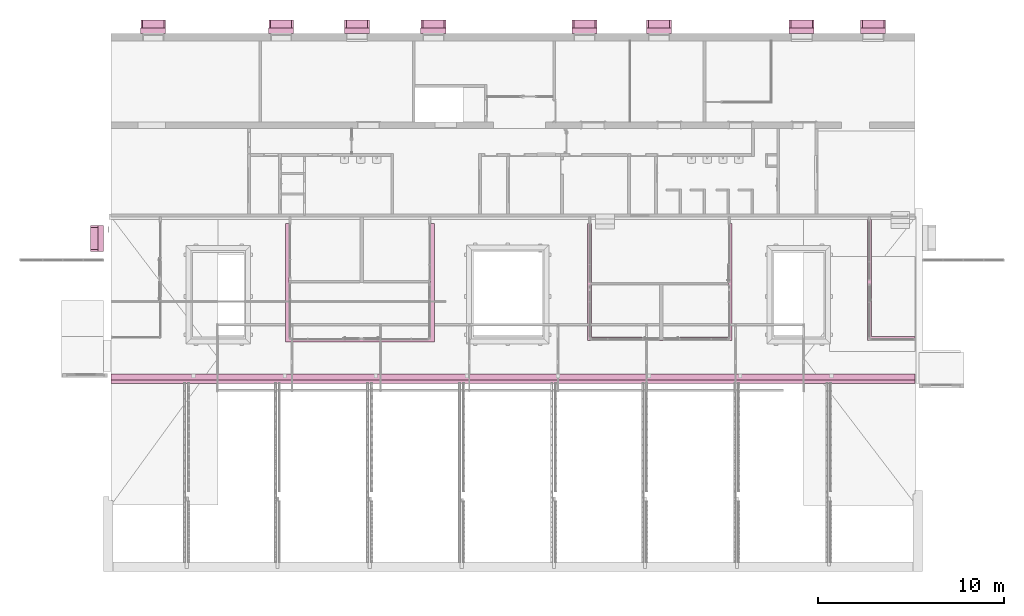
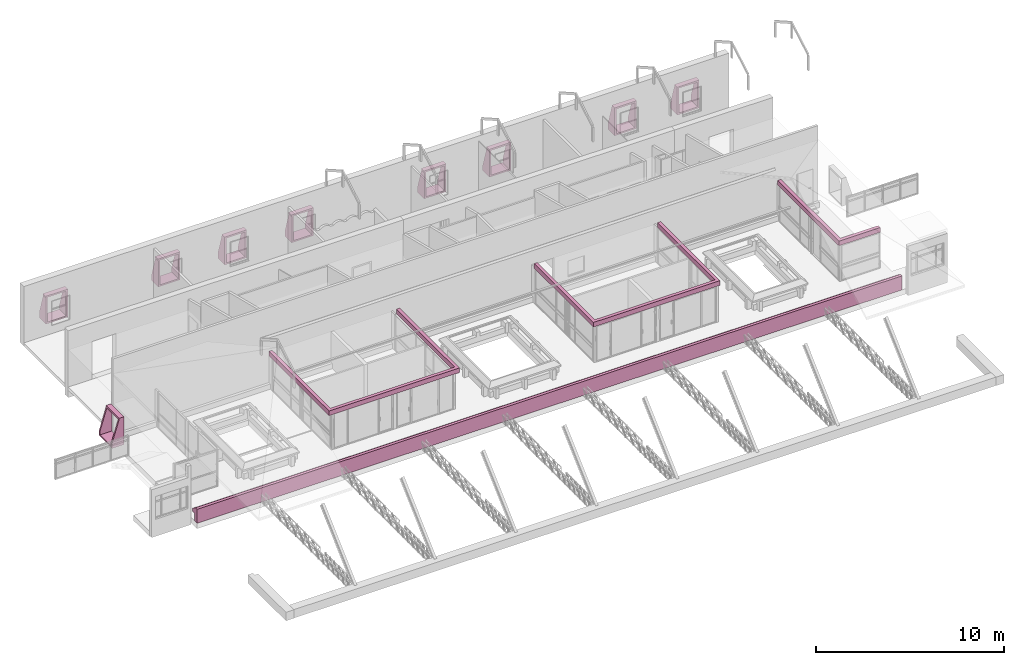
# One storey, part 150 of 153: 12 furniture elements.
"""IFC4 building model written with IfcOpenShell, lengths in metres."""

from ifc_helpers import new_model, entity, si_unit, converted_unit, derived_unit, direction, frame, origin, place, context, subcontext, project, spatial, indexed_curve, outline, extrude, source, transform, mapped, material, type_object, type_shapes, element, save


model = new_model("IFC4")

# Units and contexts
model_context = context("Model", 3, precision=1e-05, world=origin(), true_north=direction((6.123031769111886e-17, 1.0)))
body_context = subcontext(model_context, "Body", "Model", "MODEL_VIEW")
ifc_project = project(units=[si_unit("LENGTHUNIT", "METRE"), si_unit("AREAUNIT", "SQUARE_METRE"), si_unit("VOLUMEUNIT", "CUBIC_METRE"), converted_unit("PLANEANGLEUNIT", "DEGREE", entity("IfcRatioMeasure", 0.017453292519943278), si_unit("PLANEANGLEUNIT", "RADIAN"), dimensions=[0, 0, 0, 0, 0, 0, 0]), si_unit("MASSUNIT", "GRAM", prefix="KILO"), derived_unit("MASSDENSITYUNIT", [(si_unit("MASSUNIT", "GRAM", prefix="KILO"), 1), (si_unit("LENGTHUNIT", "METRE"), -3)]), derived_unit("MOMENTOFINERTIAUNIT", [(si_unit("LENGTHUNIT", "METRE"), 4)]), si_unit("TIMEUNIT", "SECOND"), si_unit("FREQUENCYUNIT", "HERTZ"), si_unit("THERMODYNAMICTEMPERATUREUNIT", "DEGREE_CELSIUS"), derived_unit("THERMALTRANSMITTANCEUNIT", [(si_unit("MASSUNIT", "GRAM", prefix="KILO"), 1), (si_unit("THERMODYNAMICTEMPERATUREUNIT", "KELVIN"), -1), (si_unit("TIMEUNIT", "SECOND"), -3)]), derived_unit("VOLUMETRICFLOWRATEUNIT", [(si_unit("LENGTHUNIT", "METRE"), 3), (si_unit("TIMEUNIT", "SECOND"), -1)]), derived_unit("MASSFLOWRATEUNIT", [(si_unit("MASSUNIT", "GRAM", prefix="KILO"), 1), (si_unit("TIMEUNIT", "SECOND"), -1)]), derived_unit("ROTATIONALFREQUENCYUNIT", [(si_unit("TIMEUNIT", "SECOND"), -1)]), si_unit("ELECTRICCURRENTUNIT", "AMPERE"), si_unit("ELECTRICVOLTAGEUNIT", "VOLT"), si_unit("POWERUNIT", "WATT"), si_unit("FORCEUNIT", "NEWTON", prefix="KILO"), si_unit("ILLUMINANCEUNIT", "LUX"), si_unit("LUMINOUSFLUXUNIT", "LUMEN"), si_unit("LUMINOUSINTENSITYUNIT", "CANDELA"), derived_unit("USERDEFINED", [(si_unit("MASSUNIT", "GRAM", prefix="KILO"), -1), (si_unit("LENGTHUNIT", "METRE"), -2), (si_unit("TIMEUNIT", "SECOND"), 3), (si_unit("LUMINOUSFLUXUNIT", "LUMEN"), 1)]), derived_unit("SOUNDPOWERUNIT", [(si_unit("MASSUNIT", "GRAM", prefix="KILO"), 1), (si_unit("LENGTHUNIT", "METRE"), 2), (si_unit("TIMEUNIT", "SECOND"), -3)]), derived_unit("SOUNDPRESSUREUNIT", [(si_unit("MASSUNIT", "GRAM", prefix="KILO"), 1), (si_unit("LENGTHUNIT", "METRE"), -1), (si_unit("TIMEUNIT", "SECOND"), -2)]), derived_unit("LINEARVELOCITYUNIT", [(si_unit("LENGTHUNIT", "METRE"), 1), (si_unit("TIMEUNIT", "SECOND"), -1)]), si_unit("PRESSUREUNIT", "PASCAL"), derived_unit("USERDEFINED", [(si_unit("LENGTHUNIT", "METRE"), -2), (si_unit("MASSUNIT", "GRAM", prefix="KILO"), 1), (si_unit("TIMEUNIT", "SECOND"), -2)]), derived_unit("LINEARFORCEUNIT", [(si_unit("MASSUNIT", "GRAM", prefix="KILO"), 1), (si_unit("LENGTHUNIT", "METRE"), 1), (si_unit("TIMEUNIT", "SECOND"), -2), (si_unit("LENGTHUNIT", "METRE"), -1)]), derived_unit("PLANARFORCEUNIT", [(si_unit("MASSUNIT", "GRAM", prefix="KILO"), 1), (si_unit("LENGTHUNIT", "METRE"), 1), (si_unit("TIMEUNIT", "SECOND"), -2), (si_unit("LENGTHUNIT", "METRE"), -2)])], contexts=[model_context])

# Site, building, storey
site_placement = place(None, origin())
site = spatial("IfcSite", under=ifc_project, at=site_placement, Name="Superficie", CompositionType="ELEMENT")
building_placement = place(site_placement, origin())
building = spatial("IfcBuilding", under=site, at=building_placement, CompositionType="ELEMENT")
storey_placement = place(building_placement, frame((0.0, 0.0, 3.5999999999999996)))
storey = spatial("IfcBuildingStorey", under=building, at=storey_placement, Name="Nivel 1", CompositionType="ELEMENT", Elevation=3.5999999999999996)

# Furniture
ifc_material = material(Name="Madera - Listel", Category="Madera")
furniture_type_1 = type_object("IfcFurnitureType", Name="Mobiliario 15:Mobiliario 15", AssemblyPlace="NOTDEFINED", PredefinedType="NOTDEFINED", material=ifc_material)
shared_shape_1 = source(origin(), body_context, "Body", "SweptSolid", [
    extrude(outline(indexed_curve([(-2.848066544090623, -4.226199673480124), (3.460083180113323, -4.226199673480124), (3.4600831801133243, -4.026199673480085), (-2.6480665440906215, -4.026199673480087), (-2.648066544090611, 3.3388003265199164), (3.460083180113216, 3.338800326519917), (3.460083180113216, 3.5388003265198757), (-2.848066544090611, 3.5388003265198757), (-2.848066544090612, 2.7495973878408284), (-2.848066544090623, -4.226199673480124)], self_intersect=False)), frame((6.5205993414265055, 1.816310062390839, 5.95), z_axis=(0.0, 0.0, 1.0), x_axis=(0.0, 1.0, 0.0)), (0.0, 0.0, 1.0), 0.30000000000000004),
    extrude(outline(indexed_curve([(-1.5919198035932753, -1.5256250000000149), (-1.4830801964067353, -1.5256250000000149), (-1.4830801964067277, 0.8093750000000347), (4.816919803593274, 0.8093750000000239), (4.816919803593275, 1.0193749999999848), (-1.6919198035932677, 1.0193749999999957), (-1.6919198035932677, 0.9193749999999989), (-1.6919198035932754, -1.5256250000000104), (-1.5919198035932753, -1.5256250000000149)], self_intersect=False)), frame((19.051174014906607, 0.6601633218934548, 5.95), z_axis=(0.0, 0.0, 1.0), x_axis=(0.0, 1.0, 0.0)), (0.0, 0.0, 1.0), 0.30000000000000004),
])
type_shapes(furniture_type_1, [shared_shape_1])
furniture_1_placement = place(storey_placement, frame((0.0, 0.0, -3.5999999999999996)))
element("IfcFurniture", 1, at=furniture_1_placement, inside=storey, type_object=furniture_type_1, material=ifc_material, Name="Mobiliario 15:Mobiliario 15", ObjectType="Mobiliario 15:Mobiliario 15", PredefinedType="NOTDEFINED", context=body_context, shape_type="MappedRepresentation", body=[
    mapped(shared_shape_1, transform((0.0, 0.0, 0.0), scale=1.0)),
])
furniture_type_2 = type_object("IfcFurnitureType", Name="Mobiliario 18:Mobiliario 15", AssemblyPlace="NOTDEFINED", PredefinedType="NOTDEFINED", material=ifc_material)
shared_shape_2 = source(origin(), body_context, "Body", "SweptSolid", [
    extrude(outline(indexed_curve([(3.8356811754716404, -2.5960000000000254), (3.935681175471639, -2.596000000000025), (3.935681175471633, 3.7940000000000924), (3.7356811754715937, 3.794000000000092), (3.7356811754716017, -2.3960000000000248), (-3.873521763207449, -2.3960000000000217), (-3.873521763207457, 3.7939999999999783), (-4.073521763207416, 3.793999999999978), (-4.07352176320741, -2.596000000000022), (-3.284318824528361, -2.596000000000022), (3.8356811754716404, -2.5960000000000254)], self_intersect=False)), frame((-9.19967922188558, 1.482393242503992, 5.95)), (0.0, 0.0, 1.0), 0.30000000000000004),
])
type_shapes(furniture_type_2, [shared_shape_2])
furniture_2_placement = place(storey_placement, frame((0.0, 0.0, -3.5999999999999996)))
element("IfcFurniture", 2, at=furniture_2_placement, inside=storey, type_object=furniture_type_2, material=ifc_material, Name="Mobiliario 18:Mobiliario 15", ObjectType="Mobiliario 18:Mobiliario 15", PredefinedType="NOTDEFINED", context=body_context, shape_type="MappedRepresentation", body=[
    mapped(shared_shape_2, transform((0.0, 0.0, 0.0), scale=1.0)),
])
furniture_type_3 = type_object("IfcFurnitureType", Name="Baranda n1:Baranda n1", AssemblyPlace="NOTDEFINED", PredefinedType="NOTDEFINED", material=ifc_material)
shared_shape_3 = source(origin(), body_context, "Body", "SweptSolid", [
    extrude(outline(indexed_curve([(-0.41571428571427, -0.25571428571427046), (0.49428571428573, -0.25571428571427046), (0.49428571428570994, 0.044285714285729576), (0.004285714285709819, 0.04428571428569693), (0.004285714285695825, 0.2542857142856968), (-0.165714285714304, 0.2542857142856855), (-0.41571428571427, -0.08571428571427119), (-0.41571428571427, -0.25571428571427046)], self_intersect=False)), frame((-22.643200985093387, -3.077892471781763, 4.0942857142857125), z_axis=(1.0, 0.0, 0.0), x_axis=(0.0, 0.0, -1.0)), (0.0, 0.0, 1.0), 43.230000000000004),
])
type_shapes(furniture_type_3, [shared_shape_3])
furniture_3_placement = place(storey_placement, frame((0.0, 0.0, -3.5999999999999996)))
element("IfcFurniture", 3, at=furniture_3_placement, inside=storey, type_object=furniture_type_3, material=ifc_material, Name="Baranda n1:Baranda n1", ObjectType="Baranda n1:Baranda n1", PredefinedType="NOTDEFINED", context=body_context, shape_type="MappedRepresentation", body=[
    mapped(shared_shape_3, transform((0.0, 0.0, 0.0), scale=1.0)),
])
furniture_type_4 = type_object("IfcFurnitureType", Name="Aberturas1:Aberturas", AssemblyPlace="NOTDEFINED", PredefinedType="NOTDEFINED", material=ifc_material)
shared_shape_4 = source(origin(), body_context, "Body", "SweptSolid", [
    extrude(outline(indexed_curve([(-0.6725000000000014, -0.15000000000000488), (0.6725000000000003, -0.15000000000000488), (0.6725000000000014, 0.15000000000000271), (-0.6725000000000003, 0.15000000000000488), (-0.6725000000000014, -0.15000000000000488)], self_intersect=False)), frame((18.48889156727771, 15.36582928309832, 6.2399999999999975)), (0.0, 0.0, 1.0), 0.1047000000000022),
    extrude(outline(indexed_curve([(-0.6900000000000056, -0.37199999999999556), (-0.43999999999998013, -0.37199999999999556), (0.9099999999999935, 0.04799999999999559), (0.9099999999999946, 0.34800000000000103), (-0.6900000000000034, 0.34800000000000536), (-0.6900000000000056, -0.37199999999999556)], self_intersect=False)), frame((19.06179901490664, 15.56382928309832, 5.330000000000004), z_axis=(1.0, 0.0, 0.0), x_axis=(0.0, 0.0, 1.0)), (0.0, 0.0, 1.0), 0.09999999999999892),
    extrude(outline(indexed_curve([(-0.6900000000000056, -0.37199999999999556), (-0.43999999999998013, -0.37199999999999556), (0.9099999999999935, 0.04799999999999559), (0.9099999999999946, 0.34800000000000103), (-0.6900000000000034, 0.34800000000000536), (-0.6900000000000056, -0.37199999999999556)], self_intersect=False)), frame((17.816391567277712, 15.563829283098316, 5.330000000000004), z_axis=(1.0, 0.0, 0.0), x_axis=(0.0, 0.0, 1.0)), (0.0, 0.0, 1.0), 0.10000000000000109),
    extrude(outline(indexed_curve([(-0.5725000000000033, -0.3599999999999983), (0.5724999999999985, -0.3599999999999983), (0.6724999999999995, -0.3599999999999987), (0.6725000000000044, 0.3599999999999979), (0.5725000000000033, 0.3600000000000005), (-0.5724999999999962, 0.36000000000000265), (-0.6724999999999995, 0.36000000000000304), (-0.6725000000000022, -0.3599999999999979), (-0.5725000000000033, -0.3599999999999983)], self_intersect=False)), frame((18.488891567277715, 15.575829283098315, 4.539999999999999), z_axis=(0.0, 0.0, 1.0), x_axis=(-1.0, 0.0, 0.0)), (0.0, 0.0, 1.0), 0.1),
])
type_shapes(furniture_type_4, [shared_shape_4])
furniture_4_placement = place(storey_placement, frame((-0.1584516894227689, 0.26999999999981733, -3.5999999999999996)))
element("IfcFurniture", 4, at=furniture_4_placement, inside=storey, type_object=furniture_type_4, material=ifc_material, Name="Aberturas1:Aberturas", ObjectType="Aberturas1:Aberturas", PredefinedType="NOTDEFINED", context=body_context, shape_type="MappedRepresentation", body=[
    mapped(shared_shape_4, transform((0.0, 0.0, 0.0), scale=1.0)),
])
furniture_type_5 = type_object("IfcFurnitureType", Name="Aberturas2:Aberturas", AssemblyPlace="NOTDEFINED", PredefinedType="NOTDEFINED", material=ifc_material)
shared_shape_5 = source(origin(), body_context, "Body", "SweptSolid", [
    extrude(outline(indexed_curve([(-0.6725000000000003, -0.15000000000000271), (0.6725000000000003, -0.15000000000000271), (0.6725000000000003, 0.15000000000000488), (-0.6725000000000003, 0.15000000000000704), (-0.6725000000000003, -0.15000000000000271)], self_intersect=False)), frame((8.173094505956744, 15.36582928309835, 6.2399999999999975)), (0.0, 0.0, 1.0), 0.1047000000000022),
    extrude(outline(indexed_curve([(-0.6900000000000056, -0.3719999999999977), (-0.43999999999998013, -0.3719999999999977), (0.9099999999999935, 0.04799999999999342), (0.9099999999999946, 0.34799999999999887), (-0.6900000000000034, 0.3480000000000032), (-0.6900000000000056, -0.3719999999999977)], self_intersect=False)), frame((8.74600195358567, 15.56382928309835, 5.330000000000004), z_axis=(1.0, 0.0, 0.0), x_axis=(0.0, 0.0, 1.0)), (0.0, 0.0, 1.0), 0.1),
    extrude(outline(indexed_curve([(-0.6900000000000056, -0.37199999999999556), (-0.43999999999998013, -0.37199999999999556), (0.9099999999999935, 0.04799999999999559), (0.9099999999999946, 0.34800000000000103), (-0.6900000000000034, 0.34800000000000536), (-0.6900000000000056, -0.37199999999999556)], self_intersect=False)), frame((7.516001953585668, 15.563829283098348, 5.330000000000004), z_axis=(1.0, 0.0, 0.0), x_axis=(0.0, 0.0, 1.0)), (0.0, 0.0, 1.0), 0.1),
    extrude(outline(indexed_curve([(-0.5667222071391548, -0.3599999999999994), (0.578277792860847, -0.3599999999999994), (0.6628703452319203, -0.3599999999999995), (0.6628703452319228, 0.36000000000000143), (0.5628703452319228, 0.36000000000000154), (-0.5667222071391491, 0.36000000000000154), (-0.6667222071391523, 0.36000000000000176), (-0.6667222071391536, -0.35999999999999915), (-0.5667222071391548, -0.3599999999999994)], self_intersect=False)), frame((8.178872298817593, 15.575829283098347, 4.539999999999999), z_axis=(0.0, 0.0, 1.0), x_axis=(-1.0, 0.0, 0.0)), (0.0, 0.0, 1.0), 0.1),
])
type_shapes(furniture_type_5, [shared_shape_5])
furniture_5_placement = place(storey_placement, frame((-1.3686606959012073, 0.2699999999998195, -3.5999999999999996)))
element("IfcFurniture", 5, at=furniture_5_placement, inside=storey, type_object=furniture_type_5, material=ifc_material, Name="Aberturas2:Aberturas", ObjectType="Aberturas2:Aberturas", PredefinedType="NOTDEFINED", context=body_context, shape_type="MappedRepresentation", body=[
    mapped(shared_shape_5, transform((0.0, 0.0, 0.0), scale=1.0)),
])
furniture_type_6 = type_object("IfcFurnitureType", Name="Aberturas3:Aberturas", AssemblyPlace="NOTDEFINED", PredefinedType="NOTDEFINED", material=ifc_material)
shared_shape_6 = source(origin(), body_context, "Body", "SweptSolid", [
    extrude(outline(indexed_curve([(-0.6725000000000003, -0.15000000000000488), (0.6725000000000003, -0.15000000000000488), (0.6725000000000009, 0.15000000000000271), (-0.6725000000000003, 0.15000000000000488), (-0.6725000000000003, -0.15000000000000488)], self_intersect=False)), frame((-5.341905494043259, 15.365829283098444, 6.2399999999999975)), (0.0, 0.0, 1.0), 0.1047000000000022),
    extrude(outline(indexed_curve([(-0.6900000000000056, -0.37199999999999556), (-0.43999999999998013, -0.37199999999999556), (0.9099999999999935, 0.04799999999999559), (0.9099999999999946, 0.34800000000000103), (-0.6900000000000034, 0.34800000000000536), (-0.6900000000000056, -0.37199999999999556)], self_intersect=False)), frame((-4.768998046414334, 15.563829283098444, 5.330000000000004), z_axis=(1.0, 0.0, 0.0), x_axis=(0.0, 0.0, 1.0)), (0.0, 0.0, 1.0), 0.1),
    extrude(outline(indexed_curve([(-0.6900000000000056, -0.3719999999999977), (-0.43999999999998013, -0.3719999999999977), (0.9099999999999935, 0.04799999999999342), (0.9099999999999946, 0.34799999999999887), (-0.6900000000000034, 0.3480000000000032), (-0.6900000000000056, -0.3719999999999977)], self_intersect=False)), frame((-5.998998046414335, 15.563829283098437, 5.330000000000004), z_axis=(1.0, 0.0, 0.0), x_axis=(0.0, 0.0, 1.0)), (0.0, 0.0, 1.0), 0.1),
    extrude(outline(indexed_curve([(-0.5667222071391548, -0.3599999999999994), (0.578277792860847, -0.3599999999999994), (0.6628703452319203, -0.3599999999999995), (0.6628703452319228, 0.36000000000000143), (0.5628703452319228, 0.36000000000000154), (-0.5667222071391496, 0.36000000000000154), (-0.6667222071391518, 0.36000000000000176), (-0.6667222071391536, -0.35999999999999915), (-0.5667222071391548, -0.3599999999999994)], self_intersect=False)), frame((-5.336127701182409, 15.57582928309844, 4.539999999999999), z_axis=(0.0, 0.0, 1.0), x_axis=(-1.0, 0.0, 0.0)), (0.0, 0.0, 1.0), 0.1),
])
type_shapes(furniture_type_6, [shared_shape_6])
furniture_6_placement = place(storey_placement, frame((0.019753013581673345, 0.26999999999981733, -3.5999999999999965)))
element("IfcFurniture", 6, at=furniture_6_placement, inside=storey, type_object=furniture_type_6, material=ifc_material, Name="Aberturas3:Aberturas", ObjectType="Aberturas3:Aberturas", PredefinedType="NOTDEFINED", context=body_context, shape_type="MappedRepresentation", body=[
    mapped(shared_shape_6, transform((0.0, 0.0, 0.0), scale=1.0)),
])
furniture_type_7 = type_object("IfcFurnitureType", Name="Aberturas5:Aberturas", AssemblyPlace="NOTDEFINED", PredefinedType="NOTDEFINED", material=ifc_material)
shared_shape_7 = source(origin(), body_context, "Body", "SweptSolid", [
    extrude(outline(indexed_curve([(-0.6725000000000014, -0.15000000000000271), (0.6725000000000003, -0.15000000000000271), (0.6725000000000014, 0.15000000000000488), (-0.6725000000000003, 0.15000000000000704), (-0.6725000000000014, -0.15000000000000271)], self_intersect=False)), frame((-14.891905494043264, 15.365829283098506, 6.2399999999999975)), (0.0, 0.0, 1.0), 0.1047000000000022),
    extrude(outline(indexed_curve([(-0.6900000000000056, -0.3719999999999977), (-0.43999999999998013, -0.3719999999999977), (0.9099999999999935, 0.04799999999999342), (0.9099999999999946, 0.34799999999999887), (-0.6900000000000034, 0.3480000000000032), (-0.6900000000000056, -0.3719999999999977)], self_intersect=False)), frame((-14.318998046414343, 15.563829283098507, 5.330000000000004), z_axis=(1.0, 0.0, 0.0), x_axis=(0.0, 0.0, 1.0)), (0.0, 0.0, 1.0), 0.09999999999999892),
    extrude(outline(indexed_curve([(-0.6900000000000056, -0.37199999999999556), (-0.43999999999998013, -0.37199999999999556), (0.9099999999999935, 0.04799999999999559), (0.9099999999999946, 0.34800000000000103), (-0.6900000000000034, 0.34800000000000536), (-0.6900000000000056, -0.37199999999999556)], self_intersect=False)), frame((-15.54899804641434, 15.563829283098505, 5.330000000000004), z_axis=(1.0, 0.0, 0.0), x_axis=(0.0, 0.0, 1.0)), (0.0, 0.0, 1.0), 0.09999999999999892),
    extrude(outline(indexed_curve([(-0.5667222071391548, -0.3599999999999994), (0.578277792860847, -0.3599999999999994), (0.6628703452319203, -0.3599999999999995), (0.6628703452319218, 0.36000000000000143), (0.5628703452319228, 0.36000000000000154), (-0.5667222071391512, 0.36000000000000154), (-0.6667222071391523, 0.36000000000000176), (-0.6667222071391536, -0.35999999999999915), (-0.5667222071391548, -0.3599999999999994)], self_intersect=False)), frame((-14.886127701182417, 15.575829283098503, 4.539999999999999), z_axis=(0.0, 0.0, 1.0), x_axis=(-1.0, 0.0, 0.0)), (0.0, 0.0, 1.0), 0.1),
])
type_shapes(furniture_type_7, [shared_shape_7])
furniture_7_placement = place(storey_placement, frame((1.3862414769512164, 0.269999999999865, -3.5999999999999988)))
element("IfcFurniture", 7, at=furniture_7_placement, inside=storey, type_object=furniture_type_7, material=ifc_material, Name="Aberturas5:Aberturas", ObjectType="Aberturas5:Aberturas", PredefinedType="NOTDEFINED", context=body_context, shape_type="MappedRepresentation", body=[
    mapped(shared_shape_7, transform((0.0, 0.0, 0.0), scale=1.0)),
])
furniture_type_8 = type_object("IfcFurnitureType", Name="Aberturas6:Aberturas", AssemblyPlace="NOTDEFINED", PredefinedType="NOTDEFINED", material=ifc_material)
shared_shape_8 = source(origin(), body_context, "Body", "SweptSolid", [
    extrude(outline(indexed_curve([(-0.6725000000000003, -0.15000000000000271), (0.6725000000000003, -0.15000000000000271), (0.6725000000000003, 0.15000000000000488), (-0.6725000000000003, 0.15000000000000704), (-0.6725000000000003, -0.15000000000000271)], self_intersect=False)), frame((-8.021905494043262, 15.365829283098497, 6.2399999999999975)), (0.0, 0.0, 1.0), 0.1047000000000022),
    extrude(outline(indexed_curve([(-0.6900000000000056, -0.3719999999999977), (-0.43999999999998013, -0.3719999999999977), (0.9099999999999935, 0.04799999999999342), (0.9099999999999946, 0.34799999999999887), (-0.6900000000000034, 0.3480000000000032), (-0.6900000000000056, -0.3719999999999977)], self_intersect=False)), frame((-7.448998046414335, 15.563829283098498, 5.330000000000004), z_axis=(1.0, 0.0, 0.0), x_axis=(0.0, 0.0, 1.0)), (0.0, 0.0, 1.0), 0.1),
    extrude(outline(indexed_curve([(-0.6900000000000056, -0.37199999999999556), (-0.43999999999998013, -0.37199999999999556), (0.9099999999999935, 0.04799999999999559), (0.9099999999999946, 0.34800000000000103), (-0.6900000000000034, 0.34800000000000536), (-0.6900000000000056, -0.37199999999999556)], self_intersect=False)), frame((-8.694405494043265, 15.563829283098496, 5.330000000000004), z_axis=(1.0, 0.0, 0.0), x_axis=(0.0, 0.0, 1.0)), (0.0, 0.0, 1.0), 0.1),
    extrude(outline(indexed_curve([(-0.5725000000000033, -0.3600000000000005), (0.5724999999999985, -0.3600000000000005), (0.6724999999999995, -0.3600000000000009), (0.6725000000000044, 0.3599999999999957), (0.5725000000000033, 0.3599999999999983), (-0.5724999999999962, 0.3600000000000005), (-0.6724999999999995, 0.3600000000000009), (-0.6725000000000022, -0.36000000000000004), (-0.5725000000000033, -0.3600000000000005)], self_intersect=False)), frame((-8.021905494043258, 15.575829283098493, 4.539999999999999), z_axis=(0.0, 0.0, 1.0), x_axis=(-1.0, 0.0, 0.0)), (0.0, 0.0, 1.0), 0.1),
])
type_shapes(furniture_type_8, [shared_shape_8])
furniture_8_placement = place(storey_placement, frame((-1.4009745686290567, 0.26999999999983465, -3.5999999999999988)))
element("IfcFurniture", 8, at=furniture_8_placement, inside=storey, type_object=furniture_type_8, material=ifc_material, Name="Aberturas6:Aberturas", ObjectType="Aberturas6:Aberturas", PredefinedType="NOTDEFINED", context=body_context, shape_type="MappedRepresentation", body=[
    mapped(shared_shape_8, transform((0.0, 0.0, 0.0), scale=1.0)),
])
furniture_type_9 = type_object("IfcFurnitureType", Name="Aberturas7:Aberturas", AssemblyPlace="NOTDEFINED", PredefinedType="NOTDEFINED", material=ifc_material)
shared_shape_9 = source(origin(), body_context, "Body", "SweptSolid", [
    extrude(outline(indexed_curve([(-0.6725000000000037, -0.15000000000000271), (0.6724999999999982, -0.15000000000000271), (0.6724999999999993, 0.15000000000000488), (-0.6725000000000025, 0.15000000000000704), (-0.6725000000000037, -0.15000000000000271)], self_intersect=False)), frame((-23.48610843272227, 15.365829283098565, 6.2399999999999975)), (0.0, 0.0, 1.0), 0.1047000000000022),
    extrude(outline(indexed_curve([(-0.6900000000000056, -0.3719999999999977), (-0.43999999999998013, -0.3719999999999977), (0.9099999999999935, 0.04799999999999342), (0.9099999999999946, 0.34799999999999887), (-0.6900000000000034, 0.3480000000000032), (-0.6900000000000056, -0.3719999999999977)], self_intersect=False)), frame((-22.913200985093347, 15.563829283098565, 5.330000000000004), z_axis=(1.0, 0.0, 0.0), x_axis=(0.0, 0.0, 1.0)), (0.0, 0.0, 1.0), 0.09999999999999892),
    extrude(outline(indexed_curve([(-0.6900000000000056, -0.37199999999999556), (-0.43999999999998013, -0.37199999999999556), (0.9099999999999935, 0.04799999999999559), (0.9099999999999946, 0.34800000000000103), (-0.6900000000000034, 0.34800000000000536), (-0.6900000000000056, -0.37199999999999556)], self_intersect=False)), frame((-24.143200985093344, 15.563829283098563, 5.330000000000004), z_axis=(1.0, 0.0, 0.0), x_axis=(0.0, 0.0, 1.0)), (0.0, 0.0, 1.0), 0.09999999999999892),
    extrude(outline(indexed_curve([(-0.5667222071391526, -0.36000000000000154), (0.578277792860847, -0.36000000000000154), (0.6628703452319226, -0.36000000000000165), (0.6628703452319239, 0.35999999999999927), (0.562870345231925, 0.3599999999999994), (-0.5667222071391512, 0.3599999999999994), (-0.6667222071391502, 0.3599999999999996), (-0.6667222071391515, -0.3600000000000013), (-0.5667222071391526, -0.36000000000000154)], self_intersect=False)), frame((-23.48033063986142, 15.57582928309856, 4.539999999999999), z_axis=(0.0, 0.0, 1.0), x_axis=(-1.0, 0.0, 0.0)), (0.0, 0.0, 1.0), 0.1),
])
type_shapes(furniture_type_9, [shared_shape_9])
furniture_9_placement = place(storey_placement, frame((3.099999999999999, 0.26999999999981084, -3.5999999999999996)))
element("IfcFurniture", 9, at=furniture_9_placement, inside=storey, type_object=furniture_type_9, material=ifc_material, Name="Aberturas7:Aberturas", ObjectType="Aberturas7:Aberturas", PredefinedType="NOTDEFINED", context=body_context, shape_type="MappedRepresentation", body=[
    mapped(shared_shape_9, transform((0.0, 0.0, 0.0), scale=1.0)),
])
furniture_type_10 = type_object("IfcFurnitureType", Name="Aberturas4:Aberturas", AssemblyPlace="NOTDEFINED", PredefinedType="NOTDEFINED", material=ifc_material)
shared_shape_10 = source(origin(), body_context, "Body", "SweptSolid", [
    extrude(outline(indexed_curve([(-0.6725000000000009, -0.15000000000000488), (0.6725000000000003, -0.15000000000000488), (0.6725000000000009, 0.15000000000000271), (-0.6725000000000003, 0.15000000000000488), (-0.6725000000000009, -0.15000000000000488)], self_intersect=False)), frame((4.153094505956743, 15.36582928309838, 6.2399999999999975)), (0.0, 0.0, 1.0), 0.1047000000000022),
    extrude(outline(indexed_curve([(-0.6900000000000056, -0.37199999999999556), (-0.43999999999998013, -0.37199999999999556), (0.9099999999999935, 0.04799999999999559), (0.9099999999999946, 0.34800000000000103), (-0.6900000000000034, 0.34800000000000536), (-0.6900000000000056, -0.37199999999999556)], self_intersect=False)), frame((4.72600195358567, 15.56382928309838, 5.330000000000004), z_axis=(1.0, 0.0, 0.0), x_axis=(0.0, 0.0, 1.0)), (0.0, 0.0, 1.0), 0.1),
    extrude(outline(indexed_curve([(-0.6900000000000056, -0.3719999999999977), (-0.43999999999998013, -0.3719999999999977), (0.9099999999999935, 0.04799999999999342), (0.9099999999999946, 0.34799999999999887), (-0.6900000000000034, 0.3480000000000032), (-0.6900000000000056, -0.3719999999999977)], self_intersect=False)), frame((3.4960019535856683, 15.563829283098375, 5.330000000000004), z_axis=(1.0, 0.0, 0.0), x_axis=(0.0, 0.0, 1.0)), (0.0, 0.0, 1.0), 0.1),
    extrude(outline(indexed_curve([(-0.5667222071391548, -0.3599999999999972), (0.578277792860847, -0.3599999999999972), (0.6628703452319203, -0.3599999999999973), (0.6628703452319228, 0.3600000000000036), (0.5628703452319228, 0.3600000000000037), (-0.5667222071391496, 0.3600000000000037), (-0.6667222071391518, 0.36000000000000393), (-0.6667222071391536, -0.359999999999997), (-0.5667222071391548, -0.3599999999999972)], self_intersect=False)), frame((4.158872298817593, 15.575829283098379, 4.539999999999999), z_axis=(0.0, 0.0, 1.0), x_axis=(-1.0, 0.0, 0.0)), (0.0, 0.0, 1.0), 0.1),
])
type_shapes(furniture_type_10, [shared_shape_10])
furniture_10_placement = place(storey_placement, frame((-1.346465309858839, 0.2699999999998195, -3.5999999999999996)))
element("IfcFurniture", 10, at=furniture_10_placement, inside=storey, type_object=furniture_type_10, material=ifc_material, Name="Aberturas4:Aberturas", ObjectType="Aberturas4:Aberturas", PredefinedType="NOTDEFINED", context=body_context, shape_type="MappedRepresentation", body=[
    mapped(shared_shape_10, transform((0.0, 0.0, 0.0), scale=1.0)),
])
furniture_type_11 = type_object("IfcFurnitureType", Name="Aberturas8:Aberturas", AssemblyPlace="NOTDEFINED", PredefinedType="NOTDEFINED", material=ifc_material)
shared_shape_11 = source(origin(), body_context, "Body", "SweptSolid", [
    extrude(outline(indexed_curve([(-0.6725000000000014, -0.15000000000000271), (0.6725000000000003, -0.15000000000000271), (0.6725000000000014, 0.15000000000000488), (-0.6725000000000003, 0.15000000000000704), (-0.6725000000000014, -0.15000000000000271)], self_intersect=False)), frame((12.40809450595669, 15.365829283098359, 6.2399999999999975)), (0.0, 0.0, 1.0), 0.1047000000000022),
    extrude(outline(indexed_curve([(-0.6900000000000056, -0.3719999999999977), (-0.43999999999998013, -0.3719999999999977), (0.9099999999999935, 0.04799999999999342), (0.9099999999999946, 0.34799999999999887), (-0.6900000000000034, 0.3480000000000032), (-0.6900000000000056, -0.3719999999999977)], self_intersect=False)), frame((12.981001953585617, 15.56382928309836, 5.330000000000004), z_axis=(1.0, 0.0, 0.0), x_axis=(0.0, 0.0, 1.0)), (0.0, 0.0, 1.0), 0.09999999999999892),
    extrude(outline(indexed_curve([(-0.6900000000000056, -0.37199999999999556), (-0.43999999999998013, -0.37199999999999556), (0.9099999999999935, 0.04799999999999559), (0.9099999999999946, 0.34800000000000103), (-0.6900000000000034, 0.34800000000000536), (-0.6900000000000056, -0.37199999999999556)], self_intersect=False)), frame((11.735594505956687, 15.563829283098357, 5.330000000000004), z_axis=(1.0, 0.0, 0.0), x_axis=(0.0, 0.0, 1.0)), (0.0, 0.0, 1.0), 0.10000000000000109),
    extrude(outline(indexed_curve([(-0.5725000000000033, -0.3600000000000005), (0.5724999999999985, -0.3600000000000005), (0.6724999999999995, -0.3600000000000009), (0.6725000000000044, 0.3599999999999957), (0.5725000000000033, 0.3599999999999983), (-0.5724999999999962, 0.3600000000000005), (-0.6724999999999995, 0.3600000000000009), (-0.6725000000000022, -0.36000000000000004), (-0.5725000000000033, -0.3600000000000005)], self_intersect=False)), frame((12.408094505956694, 15.575829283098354, 4.539999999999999), z_axis=(0.0, 0.0, 1.0), x_axis=(-1.0, 0.0, 0.0)), (0.0, 0.0, 1.0), 0.1),
])
type_shapes(furniture_type_11, [shared_shape_11])
furniture_11_placement = place(storey_placement, frame((2.083310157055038, 0.26999999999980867, -3.600000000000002)))
element("IfcFurniture", 11, at=furniture_11_placement, inside=storey, type_object=furniture_type_11, material=ifc_material, Name="Aberturas8:Aberturas", ObjectType="Aberturas8:Aberturas", PredefinedType="NOTDEFINED", context=body_context, shape_type="MappedRepresentation", body=[
    mapped(shared_shape_11, transform((0.0, 0.0, 0.0), scale=1.0)),
])
furniture_type_12 = type_object("IfcFurnitureType", Name="Aberturas9:Aberturas", AssemblyPlace="NOTDEFINED", PredefinedType="NOTDEFINED", material=ifc_material)
shared_shape_12 = source(origin(), body_context, "Body", "SweptSolid", [
    extrude(outline(indexed_curve([(-0.6949814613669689, -0.15000000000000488), (0.6949814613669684, -0.15000000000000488), (0.6949814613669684, 0.15000000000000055), (-0.6949814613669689, 0.15000000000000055), (-0.6949814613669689, -0.15000000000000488)], self_intersect=False)), frame((21.136799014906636, 4.4804403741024, 6.2399999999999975), z_axis=(0.0, 0.0, 1.0), x_axis=(0.0, -1.0, 0.0)), (0.0, 0.0, 1.0), 0.1047000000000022),
    extrude(outline(indexed_curve([(-0.37200000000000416, -0.689999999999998), (0.3480000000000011, -0.689999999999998), (0.3480000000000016, 0.9099999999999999), (0.048000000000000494, 0.9099999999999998), (-0.37200000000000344, -0.4400000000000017), (-0.37200000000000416, -0.689999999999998)], self_intersect=False)), frame((21.334799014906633, 3.785051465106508, 5.3299999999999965), z_axis=(0.0, 1.0, 0.0), x_axis=(-1.0, 0.0, 0.0)), (0.0, 0.0, 1.0), 0.1),
    extrude(outline(indexed_curve([(-0.37200000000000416, -0.6899999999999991), (0.3480000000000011, -0.6899999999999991), (0.3480000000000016, 0.9099999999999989), (0.048000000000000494, 0.9099999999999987), (-0.37200000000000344, -0.4400000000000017), (-0.37200000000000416, -0.6899999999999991)], self_intersect=False)), frame((21.334799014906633, 5.07542183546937, 5.329999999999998), z_axis=(0.0, 1.0, 0.0), x_axis=(-1.0, 0.0, 0.0)), (0.0, 0.0, 1.0), 0.1),
    extrude(outline(indexed_curve([(-0.5951851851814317, -0.3600000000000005), (0.5951851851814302, -0.3600000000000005), (0.6951851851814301, -0.3600000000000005), (0.6951851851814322, 0.3600000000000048), (0.5951851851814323, 0.3600000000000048), (-0.595185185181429, 0.3600000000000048), (-0.6951851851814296, 0.3600000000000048), (-0.6951851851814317, -0.3600000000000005), (-0.5951851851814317, -0.3600000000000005)], self_intersect=False)), frame((21.346799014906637, 4.480644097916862, 4.539999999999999), z_axis=(0.0, 0.0, 1.0), x_axis=(0.0, 1.0, 0.0)), (0.0, 0.0, 1.0), 0.1),
])
type_shapes(furniture_type_12, [shared_shape_12])
furniture_12_placement = place(storey_placement, frame((-2.0564019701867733, 8.93049183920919, -3.5999999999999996), z_axis=(0.0, 0.0, 1.0), x_axis=(-1.0, 0.0, 0.0)))
element("IfcFurniture", 12, at=furniture_12_placement, inside=storey, type_object=furniture_type_12, material=ifc_material, Name="Aberturas9:Aberturas", ObjectType="Aberturas9:Aberturas", PredefinedType="NOTDEFINED", context=body_context, shape_type="MappedRepresentation", body=[
    mapped(shared_shape_12, transform((0.0, 0.0, 0.0), scale=1.0)),
])

save(model, "model.ifc")
